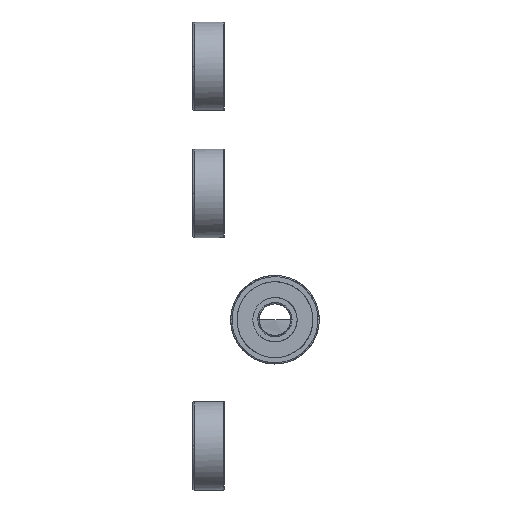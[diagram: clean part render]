
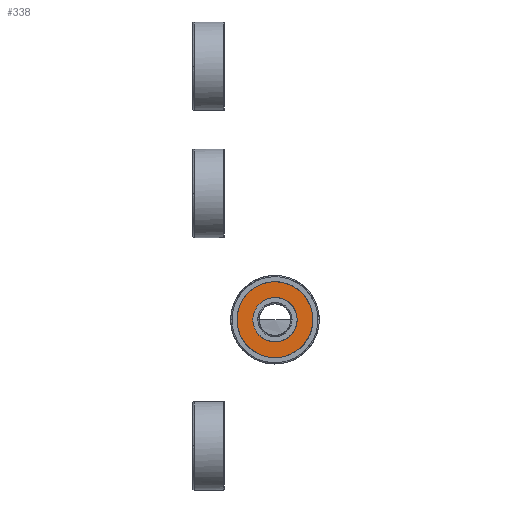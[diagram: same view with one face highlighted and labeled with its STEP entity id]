
A CAD part, top view. The second image highlights one B-rep face of the part: STEP entity #338.
In plain terms, the highlighted planar face has unit normal (0, 0, 1) as drawn and (1, 0, 0) by its records, which use the part's own axes.
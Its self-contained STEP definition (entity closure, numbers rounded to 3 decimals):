
#27=FACE_BOUND('',#391,.T.);
#33=PLANE('',#1203);
#338=ADVANCED_FACE('',(#364,#27),#33,.T.);
#364=FACE_OUTER_BOUND('',#390,.T.);
#390=EDGE_LOOP('',(#455));
#391=EDGE_LOOP('',(#456));
#455=ORIENTED_EDGE('',*,*,#922,.T.);
#456=ORIENTED_EDGE('',*,*,#923,.T.);
#546=PCURVE('',#33,#637);
#547=PCURVE('',#33,#638);
#637=DEFINITIONAL_REPRESENTATION('',(#1000),#2875);
#638=DEFINITIONAL_REPRESENTATION('',(#1002),#2875);
#831=SURFACE_CURVE('',#999,(#546),.PCURVE_S1.);
#832=SURFACE_CURVE('',#1001,(#547),.PCURVE_S1.);
#922=EDGE_CURVE('',#1092,#1092,#831,.T.);
#923=EDGE_CURVE('',#1093,#1093,#832,.T.);
#999=(
BOUNDED_CURVE()
B_SPLINE_CURVE(2,(#1983,#1984,#1985,#1986,#1987,#1988,#1989,#1990,#1991),
 .UNSPECIFIED.,.T.,.F.)
B_SPLINE_CURVE_WITH_KNOTS((3,2,2,2,3),(-6.283,-4.712,
-3.142,-1.571,0.),.UNSPECIFIED.)
CURVE()
GEOMETRIC_REPRESENTATION_ITEM()
RATIONAL_B_SPLINE_CURVE((1.,0.707,1.,0.707,1.,0.707,
1.,0.707,1.))
REPRESENTATION_ITEM('')
);
#1000=(
BOUNDED_CURVE()
B_SPLINE_CURVE(2,(#1992,#1993,#1994,#1995,#1996,#1997,#1998,#1999,#2000),
 .UNSPECIFIED.,.T.,.F.)
B_SPLINE_CURVE_WITH_KNOTS((3,2,2,2,3),(-6.283,-4.712,
-3.142,-1.571,0.),.UNSPECIFIED.)
CURVE()
GEOMETRIC_REPRESENTATION_ITEM()
RATIONAL_B_SPLINE_CURVE((1.,0.707,1.,0.707,1.,0.707,
1.,0.707,1.))
REPRESENTATION_ITEM('')
);
#1001=(
BOUNDED_CURVE()
B_SPLINE_CURVE(2,(#2001,#2002,#2003,#2004,#2005,#2006,#2007,#2008,#2009),
 .UNSPECIFIED.,.T.,.F.)
B_SPLINE_CURVE_WITH_KNOTS((3,2,2,2,3),(-9.425,-7.854,
-6.283,-4.712,-3.142),.UNSPECIFIED.)
CURVE()
GEOMETRIC_REPRESENTATION_ITEM()
RATIONAL_B_SPLINE_CURVE((1.,0.707,1.,0.707,1.,0.707,
1.,0.707,1.))
REPRESENTATION_ITEM('')
);
#1002=(
BOUNDED_CURVE()
B_SPLINE_CURVE(2,(#2010,#2011,#2012,#2013,#2014,#2015,#2016,#2017,#2018),
 .UNSPECIFIED.,.T.,.F.)
B_SPLINE_CURVE_WITH_KNOTS((3,2,2,2,3),(-9.425,-7.854,
-6.283,-4.712,-3.142),.UNSPECIFIED.)
CURVE()
GEOMETRIC_REPRESENTATION_ITEM()
RATIONAL_B_SPLINE_CURVE((1.,0.707,1.,0.707,1.,0.707,
1.,0.707,1.))
REPRESENTATION_ITEM('')
);
#1092=VERTEX_POINT('',#1981);
#1093=VERTEX_POINT('',#1982);
#1203=AXIS2_PLACEMENT_3D('',#1980,#1218,$);
#1218=DIRECTION('',(1.,0.,0.));
#1980=CARTESIAN_POINT('',(4.476,-6.,6.));
#1981=CARTESIAN_POINT('',(4.476,6.,0.));
#1982=CARTESIAN_POINT('',(4.476,-3.5,0.));
#1983=CARTESIAN_POINT('',(4.476,6.,0.));
#1984=CARTESIAN_POINT('',(4.476,6.,6.));
#1985=CARTESIAN_POINT('',(4.476,0.,6.));
#1986=CARTESIAN_POINT('',(4.476,-6.,6.));
#1987=CARTESIAN_POINT('',(4.476,-6.,0.));
#1988=CARTESIAN_POINT('',(4.476,-6.,-6.));
#1989=CARTESIAN_POINT('',(4.476,0.,-6.));
#1990=CARTESIAN_POINT('',(4.476,6.,-6.));
#1991=CARTESIAN_POINT('',(4.476,6.,0.));
#1992=CARTESIAN_POINT('',(0.5,1.));
#1993=CARTESIAN_POINT('',(0.,1.));
#1994=CARTESIAN_POINT('',(0.,0.5));
#1995=CARTESIAN_POINT('',(0.,0.));
#1996=CARTESIAN_POINT('',(0.5,0.));
#1997=CARTESIAN_POINT('',(1.,0.));
#1998=CARTESIAN_POINT('',(1.,0.5));
#1999=CARTESIAN_POINT('',(1.,1.));
#2000=CARTESIAN_POINT('',(0.5,1.));
#2001=CARTESIAN_POINT('',(4.476,-3.5,0.));
#2002=CARTESIAN_POINT('',(4.476,-3.5,3.5));
#2003=CARTESIAN_POINT('',(4.476,0.,3.5));
#2004=CARTESIAN_POINT('',(4.476,3.5,3.5));
#2005=CARTESIAN_POINT('',(4.476,3.5,0.));
#2006=CARTESIAN_POINT('',(4.476,3.5,-3.5));
#2007=CARTESIAN_POINT('',(4.476,0.,-3.5));
#2008=CARTESIAN_POINT('',(4.476,-3.5,-3.5));
#2009=CARTESIAN_POINT('',(4.476,-3.5,0.));
#2010=CARTESIAN_POINT('',(0.5,0.208));
#2011=CARTESIAN_POINT('',(0.208,0.208));
#2012=CARTESIAN_POINT('',(0.208,0.5));
#2013=CARTESIAN_POINT('',(0.208,0.792));
#2014=CARTESIAN_POINT('',(0.5,0.792));
#2015=CARTESIAN_POINT('',(0.792,0.792));
#2016=CARTESIAN_POINT('',(0.792,0.5));
#2017=CARTESIAN_POINT('',(0.792,0.208));
#2018=CARTESIAN_POINT('',(0.5,0.208));
#2875=(
GEOMETRIC_REPRESENTATION_CONTEXT(2)
PARAMETRIC_REPRESENTATION_CONTEXT()
REPRESENTATION_CONTEXT('pspace','')
);
